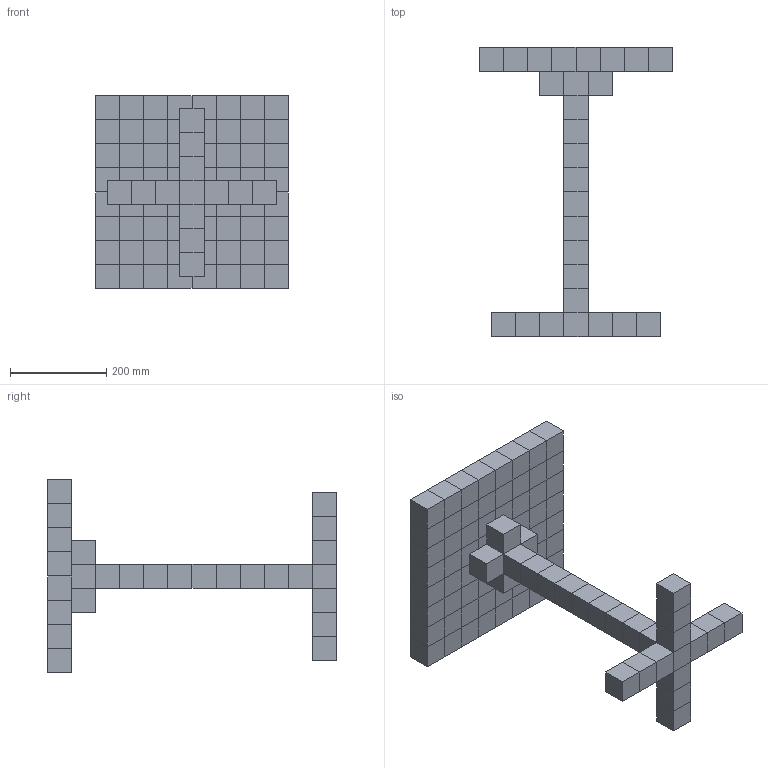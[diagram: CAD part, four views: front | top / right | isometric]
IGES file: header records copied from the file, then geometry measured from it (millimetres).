
Start section: SolidWorks IGES file using analytic representation for surfaces
Global section: file name: P:\Product Development\01_PRODUCTS\TA_Tables\25_Chess table\02_Concept\3D\chess table.IGS; native system: SolidWorks 2010; preprocessor: SolidWorks 2010; author: Sonneveld; date: 100208.153350; units: millimetre
Bounding box: 400 x 600 x 400 mm (x, y, z)
Surface area: 1365000 mm2 (no closed solid volume)
Topology: 0 solids, 0 shells, 546 faces, 2184 edges, 2184 vertices
Faces by surface type: bspline 546
